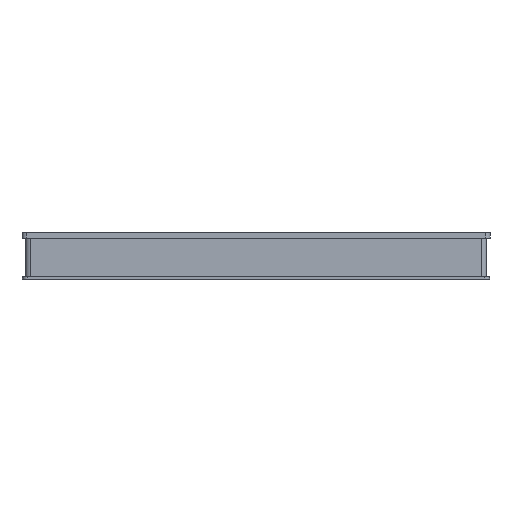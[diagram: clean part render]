
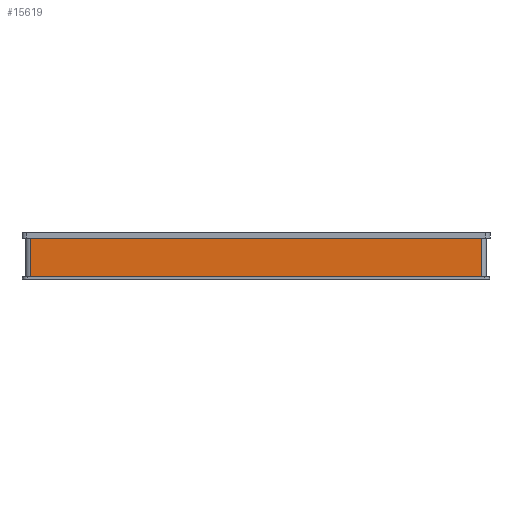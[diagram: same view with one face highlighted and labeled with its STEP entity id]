
A CAD part, left-side view. The second image highlights one B-rep face of the part: STEP entity #15619.
In plain terms, the highlighted planar face has unit normal (-1, 0, 0).
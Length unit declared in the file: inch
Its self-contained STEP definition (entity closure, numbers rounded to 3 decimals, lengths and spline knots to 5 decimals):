
#50=LINE($,#23883,#162);
#72=LINE($,#27579,#184);
#73=LINE($,#27584,#185);
#74=LINE($,#27586,#186);
#162=VECTOR($,#18517,18.97638);
#184=VECTOR($,#23357,1.61417);
#185=VECTOR($,#23364,1.61417);
#186=VECTOR($,#23367,18.97638);
#899=PLANE($,#18193);
#3433=FACE_OUTER_BOUND($,#5941,.T.);
#5941=EDGE_LOOP($,(#12779,#12780,#12781,#12782));
#7412=VERTEX_POINT($,#23880);
#7413=VERTEX_POINT($,#23882);
#8642=VERTEX_POINT($,#27578);
#8643=VERTEX_POINT($,#27582);
#8806=EDGE_CURVE($,#7413,#7412,#50,.T.);
#10048=EDGE_CURVE($,#7413,#8642,#72,.T.);
#10051=EDGE_CURVE($,#8643,#7412,#73,.T.);
#10052=EDGE_CURVE($,#8642,#8643,#74,.T.);
#12779=ORIENTED_EDGE($,*,*,#10048,.F.);
#12780=ORIENTED_EDGE($,*,*,#8806,.T.);
#12781=ORIENTED_EDGE($,*,*,#10051,.F.);
#12782=ORIENTED_EDGE($,*,*,#10052,.F.);
#15619=ADVANCED_FACE($,(#3433),#899,.T.);
#18193=AXIS2_PLACEMENT_3D($,#27585,#23365,#23366);
#18517=DIRECTION($,(0.,1.,0.));
#23357=DIRECTION($,(0.,0.,-1.));
#23364=DIRECTION($,(0.,0.,1.));
#23365=DIRECTION('center_axis',(-1.,0.,0.));
#23366=DIRECTION('ref_axis',(0.,0.,1.));
#23367=DIRECTION($,(0.,1.,0.));
#23880=CARTESIAN_POINT('',(-7.83984,19.31102,1.73228));
#23882=CARTESIAN_POINT('',(-7.83984,0.33465,1.73228));
#23883=CARTESIAN_POINT($,(-7.83984,19.50787,1.73228));
#27578=CARTESIAN_POINT('',(-7.83984,0.33465,0.11811));
#27579=CARTESIAN_POINT($,(-7.83984,0.33465,0.11811));
#27582=CARTESIAN_POINT('',(-7.83984,19.31102,0.11811));
#27584=CARTESIAN_POINT($,(-7.83984,19.31102,0.11811));
#27585=CARTESIAN_POINT('Origin',(-7.83984,0.1378,0.11811));
#27586=CARTESIAN_POINT($,(-7.83984,4.98031,0.11811));
